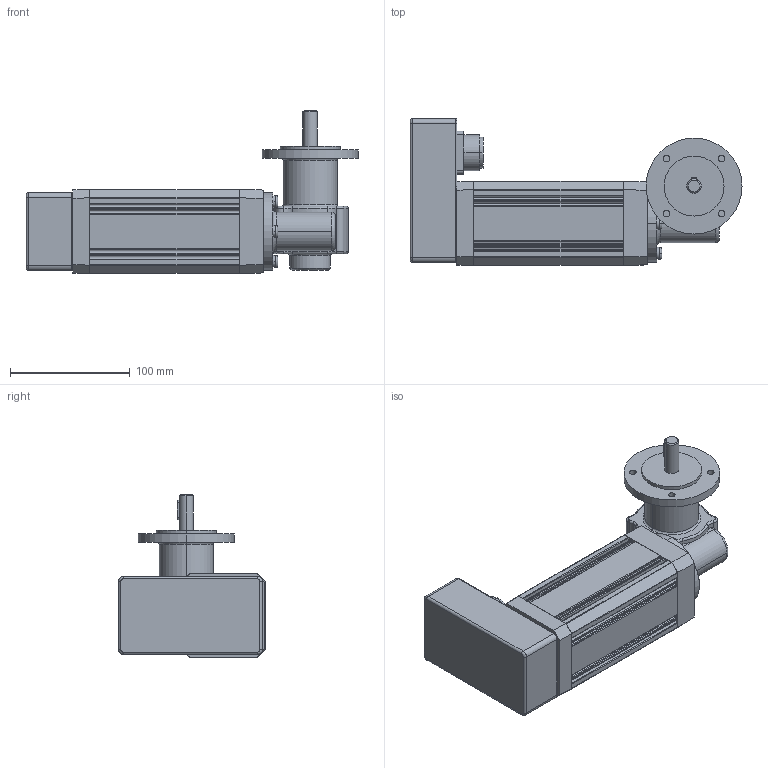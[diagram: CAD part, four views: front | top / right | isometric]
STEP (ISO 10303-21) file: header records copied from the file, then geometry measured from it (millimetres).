
FILE_DESCRIPTION(('OneSpaceDesigner STEP Export'),'2;1');
FILE_NAME('UECG313TH_GF127-10_F.stp','2008-06-24T10:16:10',(''),(''),'OneSpace Designer STEP processor (Jan. 2003) for AP214(CD)(Solid Model)','OneSpace Designer 12.01D 09-Jul-2004 (C) CoCreate Software GmbH','');
FILE_SCHEMA(('AUTOMOTIVE_DESIGN_CC2 {1 2 10303 214 -1 1 5 1}'));
Length unit declared in the file: millimetre
Products named in the file (2): UECG313TH_GF127-10_F
Assembly tree (1 placements, depth 2):
  UECG313TH_GF127-10_F
    UECG313TH_GF127-10_F
Bounding box: 277 x 122.6 x 136.1 mm (x, y, z)
Volume: 1363185.4 mm3; surface area: 124875.9 mm2
Topology: 1 solids, 1 shells, 349 faces, 907 edges, 576 vertices
Faces by surface type: cylinder 155, plane 116, torus 74, cone 4
Entity records: 11156 total; most frequent: CARTESIAN_POINT 2947, ORIENTED_EDGE 1814, DIRECTION 1654, EDGE_CURVE 907, AXIS2_PLACEMENT_3D 616, VERTEX_POINT 576, VECTOR 422, LINE 422
